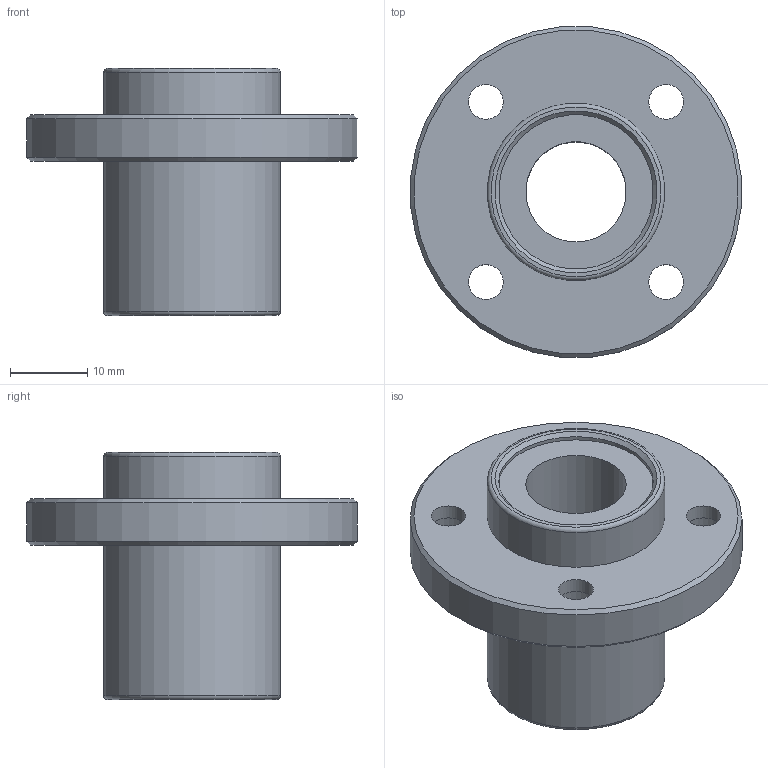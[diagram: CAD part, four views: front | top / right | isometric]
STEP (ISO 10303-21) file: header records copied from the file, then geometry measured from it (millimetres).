
FILE_DESCRIPTION(/* description */ (''),/* implementation_level */ '2;1');
FILE_NAME(/* name */ 'LMFP13UU',/* time_stamp */ '2019-07-03T11:32:56+02:00',/* author */ ('VĂ©gh MĂˇtĂ©'),/* organization */ ('Bearing Kft'),/* preprocessor_version */ 'ST-DEVELOPER v16.7',/* originating_system */ 'DEX',/* authorisation */ $);
FILE_SCHEMA (('AUTOMOTIVE_DESIGN {1 0 10303 214 3 1 1}'));
Length unit declared in the file: millimetre
Products named in the file (1): LMFP13UU
Bounding box: 42.84 x 42.84 x 32 mm (x, y, z)
Volume: 14000.9 mm3; surface area: 6914.2 mm2
Topology: 1 solids, 1 shells, 340 faces, 847 edges, 564 vertices
Faces by surface type: plane 255, bspline 62, cylinder 17, cone 4, torus 2
Full cylindrical faces by diameter (mm): 4.5 x4, 7.5 x4, 13 x1, 20 x2, 23 x2, 43 x1
Entity records: 12728 total; most frequent: CARTESIAN_POINT 5041, ORIENTED_EDGE 1644, DIRECTION 1296, EDGE_CURVE 822, LINE 658, VECTOR 658, VERTEX_POINT 560, EDGE_LOOP 426
